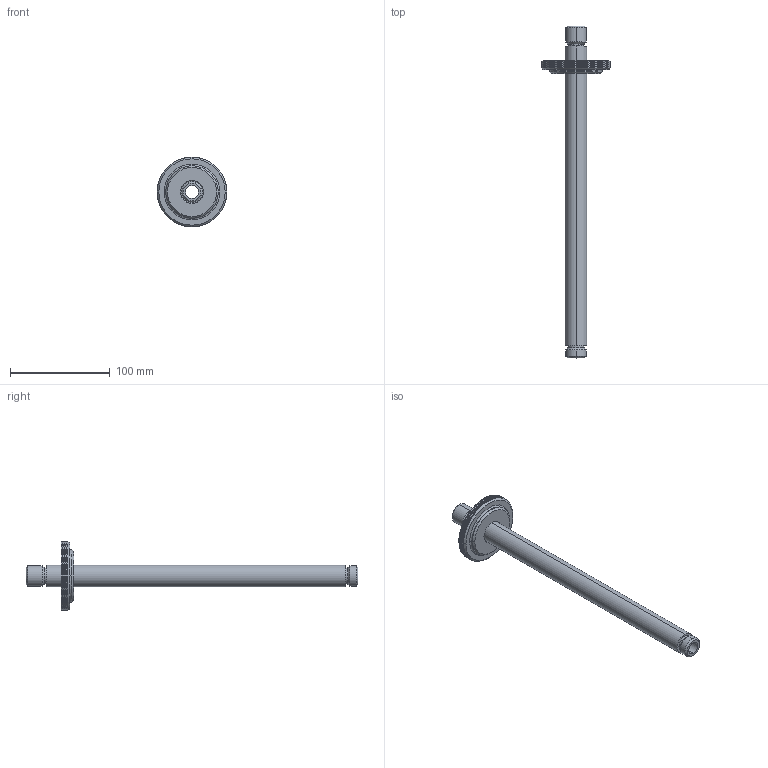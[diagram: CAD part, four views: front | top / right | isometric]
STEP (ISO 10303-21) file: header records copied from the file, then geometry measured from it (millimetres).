
FILE_DESCRIPTION((''),'2;1');
FILE_NAME('F1386_ASM','2025-05-21T09:03:45',('ivanv'),(''),'CREO PARAMETRIC BY PTC INC, 2024103','CREO PARAMETRIC BY PTC INC, 2024103','');
FILE_SCHEMA(('CONFIG_CONTROL_DESIGN'));
Length unit declared in the file: millimetre
Products named in the file (6): 7596; F2586_AF1_ASM; 1118F23_L; 5000_AF0; R1118F23-01_ASM; F1386_ASM
Assembly tree (5 placements, depth 3):
  F1386_ASM
    F2586_AF1_ASM
      7596
    R1118F23-01_ASM
      1118F23_L
      5000_AF0
Bounding box: 69.8 x 332 x 69.8 mm (x, y, z)
Volume: 105000.5 mm3; surface area: 48364.4 mm2
Topology: 3 solids, 3 shells, 97 faces, 206 edges, 120 vertices
Faces by surface type: cylinder 32, cone 30, torus 24, plane 11
Entity records: 2805 total; most frequent: DIRECTION 572, CARTESIAN_POINT 437, ORIENTED_EDGE 412, AXIS2_PLACEMENT_3D 255, EDGE_CURVE 206, CIRCLE 144, VERTEX_POINT 120, EDGE_LOOP 108
